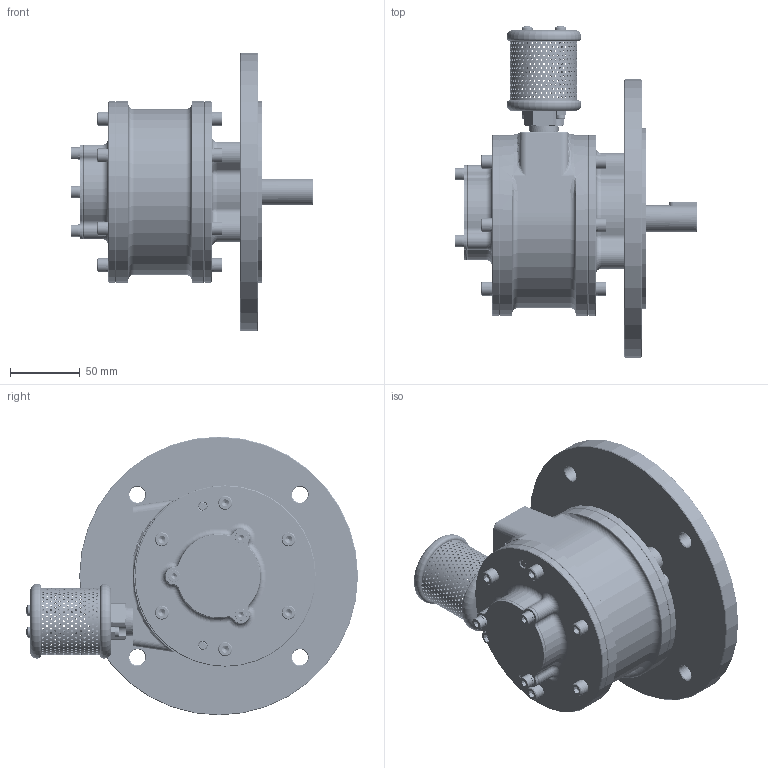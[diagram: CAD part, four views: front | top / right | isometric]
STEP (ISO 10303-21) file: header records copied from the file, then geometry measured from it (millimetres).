
FILE_DESCRIPTION (( 'STEP AP214' ), '1' );
FILE_NAME ('6VMD-SS (IEC).STEP', '2026-04-24T05:12:23', ( '' ), ( '' ), 'SwSTEP 2.0', 'SolidWorks 2017', '' );
FILE_SCHEMA (( 'AUTOMOTIVE_DESIGN' ));
Length unit declared in the file: millimetre
Products named in the file (2): 6VMD-SS (IEC)
Bounding box: 173.85 x 238.2 x 200 mm (x, y, z)
Volume: 894883 mm3; surface area: 293164.9 mm2
Topology: 65 solids, 65 shells, 4515 faces, 11931 edges, 7458 vertices
Faces by surface type: cylinder 2416, cone 1144, plane 730, torus 175, bspline 28, sphere 22
Entity records: 230633 total; most frequent: CARTESIAN_POINT 71122, ORIENTED_EDGE 23634, DIRECTION 20809, EDGE_CURVE 11817, AXIS2_PLACEMENT_3D 8137, VERTEX_POINT 7458, EDGE_LOOP 6139, UNCERTAINTY_MEASURE_WITH_UNIT 4542
